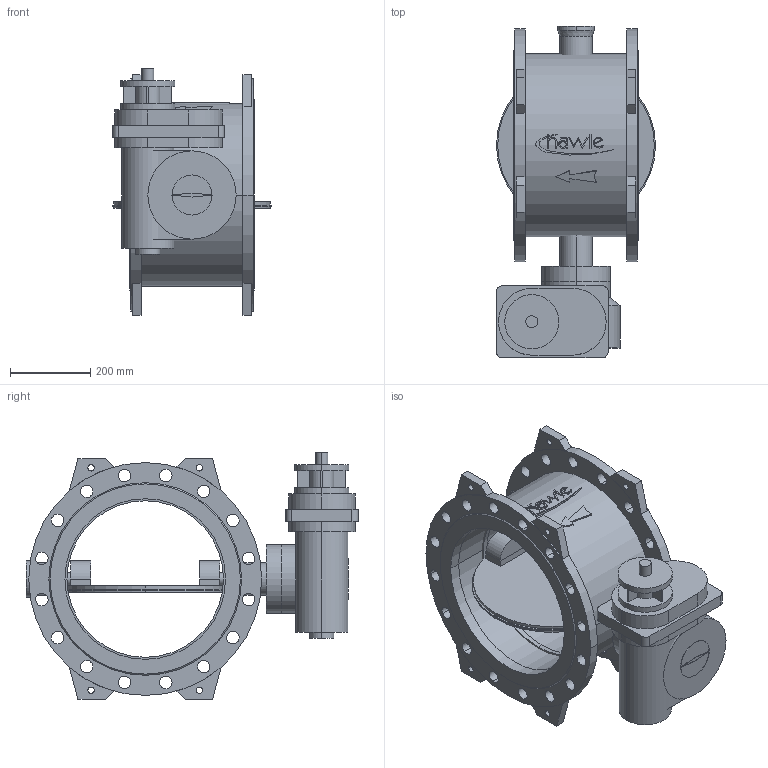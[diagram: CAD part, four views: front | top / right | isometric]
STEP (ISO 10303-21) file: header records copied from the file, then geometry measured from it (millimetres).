
FILE_DESCRIPTION(('STEP AP214'),'1');
FILE_NAME('S:/EK/USER/CAT6/3DHomepage_27-04-2012/neu_08-01-2013/9881K/9881K_PN16_DN400.STP','2013-02-26T15:26:44',(' '),(' '),'Spatial InterOp 3D',' ',' ');
FILE_SCHEMA(('automotive_design'));
Length unit declared in the file: millimetre
Products named in the file (52): 3D-Objekt
Bounding box: 396 x 827 x 615 mm (x, y, z)
Volume: 37192055.8 mm3; surface area: 3196973.8 mm2
Topology: 52 solids, 52 shells, 417 faces, 930 edges, 620 vertices
Faces by surface type: plane 214, cylinder 195, cone 8
Entity records: 16428 total; most frequent: DIRECTION 2274, CARTESIAN_POINT 2019, ORIENTED_EDGE 1860, EDGE_CURVE 930, AXIS2_PLACEMENT_3D 875, VERTEX_POINT 620, LINE 524, VECTOR 524
